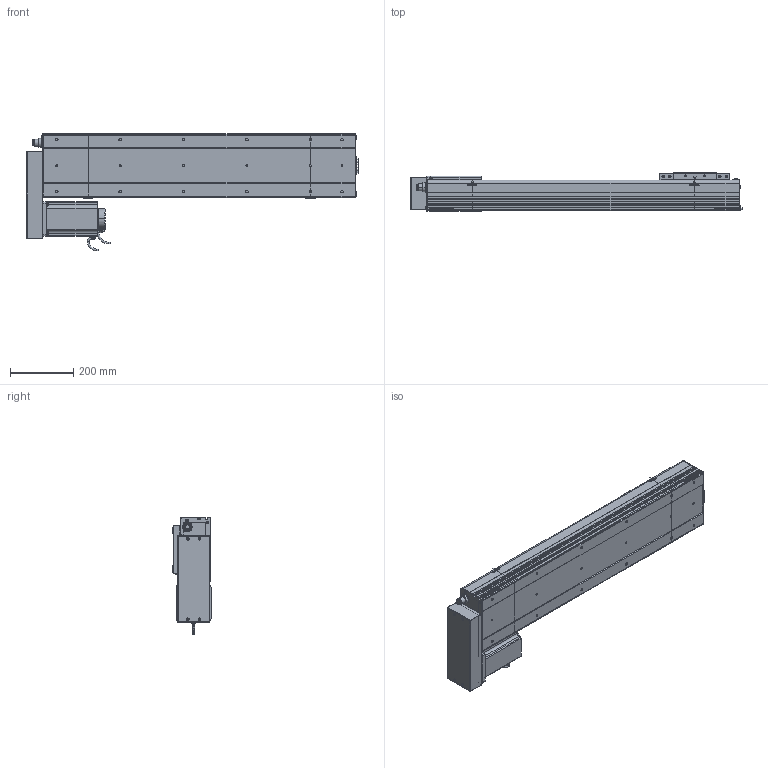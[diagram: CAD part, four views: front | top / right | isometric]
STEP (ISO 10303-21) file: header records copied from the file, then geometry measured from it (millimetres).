
FILE_DESCRIPTION (( 'STEP AP214' ), '1' );
FILE_NAME ('D20 CSH BR S700.STEP', '2010-06-30T08:07:46', ( 'Conseil Régional Haute-Normandie' ), ( 'Conseil Régional Haute-Normandie' ), 'SwSTEP 2.0', 'SolidWorks 2010', '' );
FILE_SCHEMA (( 'AUTOMOTIVE_DESIGN' ));
Length unit declared in the file: millimetre
Products named in the file (31): Support moteur BR D20_Default; Cache Moteur BR D20_Default; ecrou_Default; vis M5 L15_Default; vis M5 L47_Default; vis M5 L30_Default; clavette; Conecteur_Default; Conecteur2_Default; codeur 110BLDC170A-630x; corps 110BLDC170A-630x; avant 110BLDC170A-630x; Plaque De Serrage Head BR D20_Default; Couvercle Head BR_Default; Corp Head BR D20_Default; Moteur motionking 110BLDC170A-640x; Corp Tail D20+100_Default; Tail D20+100_Default; D20 CSH BR S700; Plaque De Serrage D20_Default; Plaque de Bout Tail D20_Default; Couvercle_Default; Couvercle S700_Default; Corp S700_Default; Corp D20 S700_Default; Chariot D20_Default; Support Chariot D20_Default; Plaque de Bout Head BR D20_Default; Head D20 BR_Default; Glissiere_Default
Assembly tree (60 placements, depth 4):
  D20 CSH BR S700
    Corp D20 S700_Default
      Couvercle S700_Default
      Corp S700_Default
    Chariot D20_Default
      vis M5 L15_Default  x8
      Chariot D20_Default
      Glissiere_Default
      Support Chariot D20_Default
    Head D20 BR_Default
      ecrou_Default  x4
      vis M5 L30_Default  x4
      Plaque de Bout Head BR D20_Default
      Cache Moteur BR D20_Default
      vis M5 L15_Default  x8
      Plaque De Serrage Head BR D20_Default
      vis M5 L47_Default  x4
      Corp Head BR D20_Default
      Support moteur BR D20_Default
      Couvercle Head BR_Default
      Moteur motionking 110BLDC170A-640x
        Conecteur_Default
        Conecteur2_Default
        clavette
        avant 110BLDC170A-630x
        corps 110BLDC170A-630x
        codeur 110BLDC170A-630x
    Tail D20+100_Default
      Plaque De Serrage D20_Default
      vis M5 L15_Default  x6
      Plaque de Bout Tail D20_Default
      Corp Tail D20+100_Default
      Couvercle_Default
Bounding box: 1047.7 x 120 x 372 mm (x, y, z)
Volume: 9280953.8 mm3; surface area: 1774677.7 mm2
Topology: 97 solids, 97 shells, 3559 faces, 8951 edges, 5829 vertices
Faces by surface type: plane 2006, bspline 806, cylinder 601, torus 83, cone 63
Entity records: 156689 total; most frequent: CARTESIAN_POINT 81843, ORIENTED_EDGE 14850, DIRECTION 11079, EDGE_CURVE 7425, VERTEX_POINT 4917, VECTOR 4877, LINE 4877, EDGE_LOOP 3156
